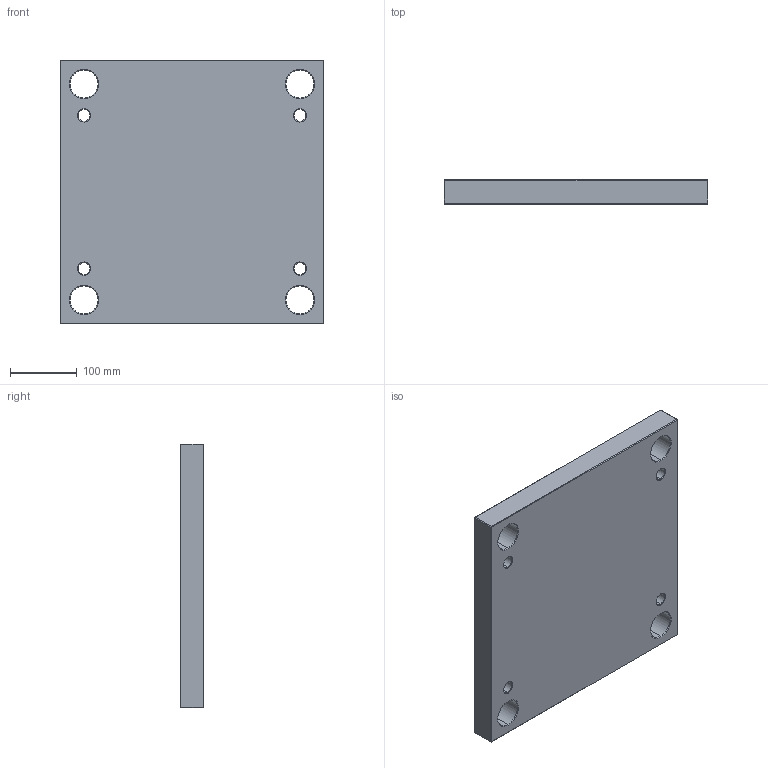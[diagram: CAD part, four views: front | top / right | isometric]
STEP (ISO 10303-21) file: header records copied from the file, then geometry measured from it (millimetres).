
FILE_DESCRIPTION (( 'STEP AP214' ), '1' );
FILE_NAME ('PBAS-EU-396x396x36.STEP', '2020-03-23T15:25:18', ( 'August' ), ( '' ), 'SwSTEP 2.0', 'SolidWorks 2018', '' );
FILE_SCHEMA (( 'AUTOMOTIVE_DESIGN' ));
Length unit declared in the file: millimetre
Products named in the file (1): PBAS-EU-396x396x36
Bounding box: 396 x 36 x 396 mm (x, y, z)
Volume: 5386852 mm3; surface area: 383625.1 mm2
Topology: 1 solids, 1 shells, 86 faces, 184 edges, 104 vertices
Faces by surface type: cone 32, plane 30, cylinder 24
Entity records: 2346 total; most frequent: DIRECTION 438, CARTESIAN_POINT 375, ORIENTED_EDGE 368, EDGE_CURVE 184, AXIS2_PLACEMENT_3D 167, EDGE_LOOP 106, LINE 104, VECTOR 104
